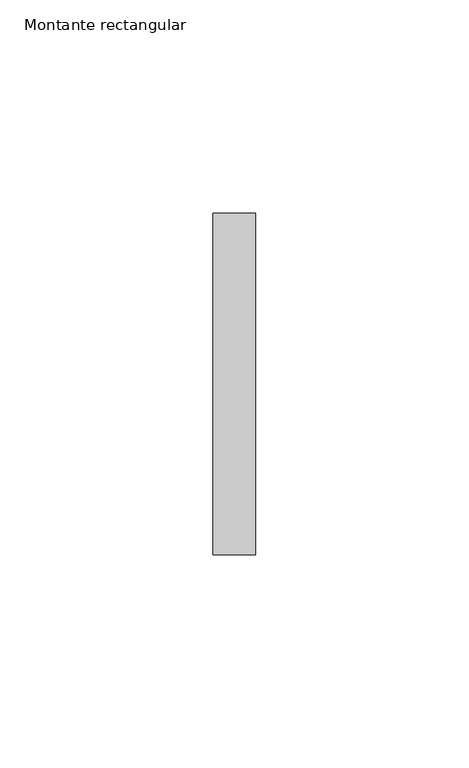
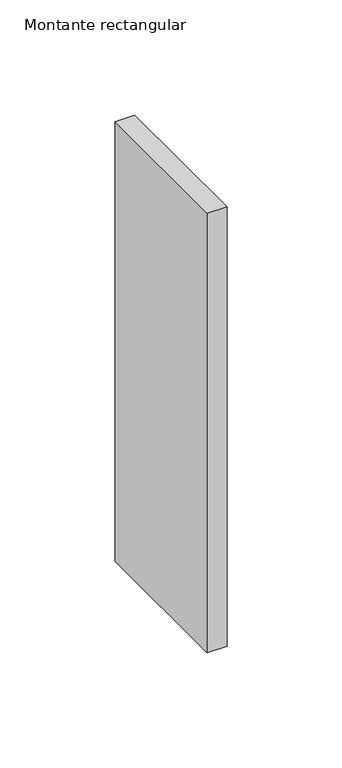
"""IFC4 building model written with IfcOpenShell, lengths in millimetres: member geometry, Montante rectangular : Junta de paves."""

from ifc_helpers import new_model, si_unit, frame, origin, place, context, project, spatial, polyline, outline, extrude, source, transform, mapped, element, save


def montante_rectangular_44f377e7(model_context):
    return source(origin(), model_context, "Body", "SweptSolid", [
        extrude(outline(polyline([(0.0, 40.0), (0.0, -40.0), (-10.0, -40.0), (-10.0, 40.0), (0.0, 40.0)])), frame((0.0, 0.0, -233.3333333), z_axis=(0.0, 0.0, 1.0), x_axis=(1.0, 0.0, 0.0)), (0.0, 0.0, 1.0), 233.3333333),
    ])


if __name__ == "__main__":
    model = new_model("IFC4")
    model_context = context("Model", 3, world=origin())
    ifc_project = project(units=[si_unit("LENGTHUNIT", "METRE", prefix="MILLI")], contexts=[model_context])
    site = spatial("IfcSite", under=ifc_project)
    building = spatial("IfcBuilding", under=site)
    placement = place(None, origin())
    montante_rectangular_shape = montante_rectangular_44f377e7(model_context)
    element("IfcMember", 1, ObjectType="Montante rectangular : Junta de paves", at=placement, inside=building, context=model_context, shape_type="MappedRepresentation", body=[
        mapped(montante_rectangular_shape, transform((0.0, 0.0, 0.0), x_axis=(1.0, 0.0, 0.0), y_axis=(0.0, 1.0, 0.0), z_axis=(0.0, 0.0, 1.0))),
    ])
    save(model, "model.ifc")
